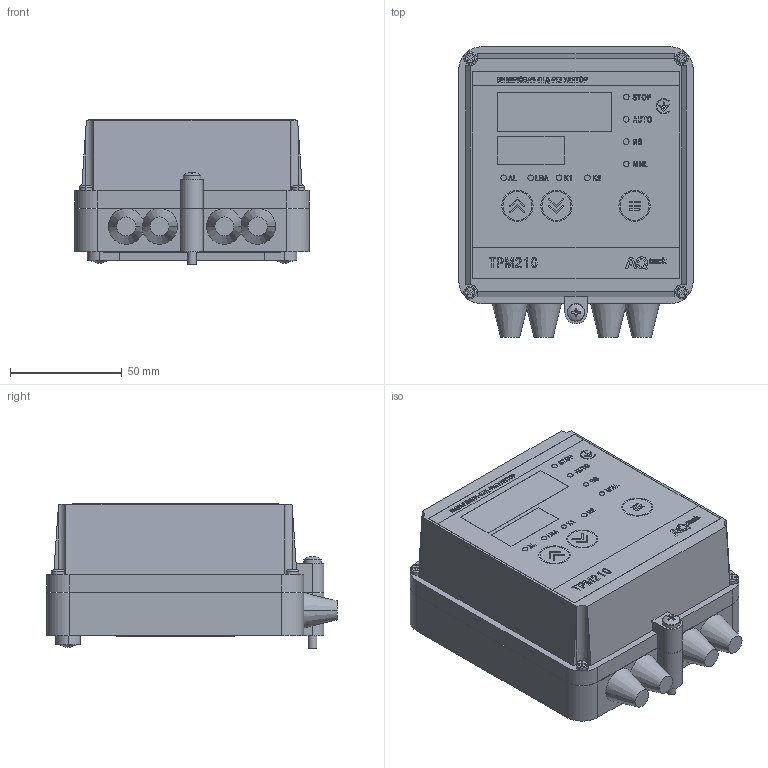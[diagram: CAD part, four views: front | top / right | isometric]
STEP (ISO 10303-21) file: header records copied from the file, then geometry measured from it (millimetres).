
FILE_DESCRIPTION (( 'STEP AP214' ), '1' );
FILE_NAME ('ﾒﾐﾌ210-ﾍ.ﾐﾐ [U03].STEP', '2025-01-20T14:15:20', ( '' ), ( '' ), 'SwSTEP 2.0', 'SolidWorks 2019', '' );
FILE_SCHEMA (( 'AUTOMOTIVE_DESIGN' ));
Length unit declared in the file: millimetre
Products named in the file (6): ﾒﾐﾌ210-ﾍ.ﾐﾐ [U03]; B18.6.7M - M4 x 0.7 x 40 Type I Cross Recessed PHMS --40N^ﾒﾐﾌ1-ﾍ.ﾓ.ﾐ [U01]; M4 x 0.7 x 40 Type I Cross Recessed PHMS; Êð³ïëåííÿ; AQ_TRM210_001F01M; Êîðïóñ ÒÐÌ210-Í
Assembly tree (6 placements, depth 2):
  ﾒﾐﾌ210-ﾍ.ﾐﾐ [U03]
    M4 x 0.7 x 40 Type I Cross Recessed PHMS  x2
    B18.6.7M - M4 x 0.7 x 40 Type I Cross Recessed PHMS --40N^ﾒﾐﾌ1-ﾍ.ﾓ.ﾐ [U01]
    AQ_TRM210_001F01M
    Êîðïóñ ÒÐÌ210-Í
    Êð³ïëåííÿ
Bounding box: 105 x 130 x 64.62 mm (x, y, z)
Volume: 666262.6 mm3; surface area: 110383.5 mm2
Topology: 303 solids, 303 shells, 4440 faces, 11428 edges, 7604 vertices
Faces by surface type: plane 3000, bspline 1296, cylinder 122, torus 11, cone 8, sphere 3
Full cylindrical faces by diameter (mm): 1.274 x1, 2.5 x16, 3.268 x2, 4 x3, 8 x3, 13 x6, 14 x3
Entity records: 190479 total; most frequent: CARTESIAN_POINT 40386, ORIENTED_EDGE 22704, DIRECTION 15300, EDGE_CURVE 11352, VECTOR 8428, LINE 8428, VERTEX_POINT 7580, EDGE_LOOP 4744
